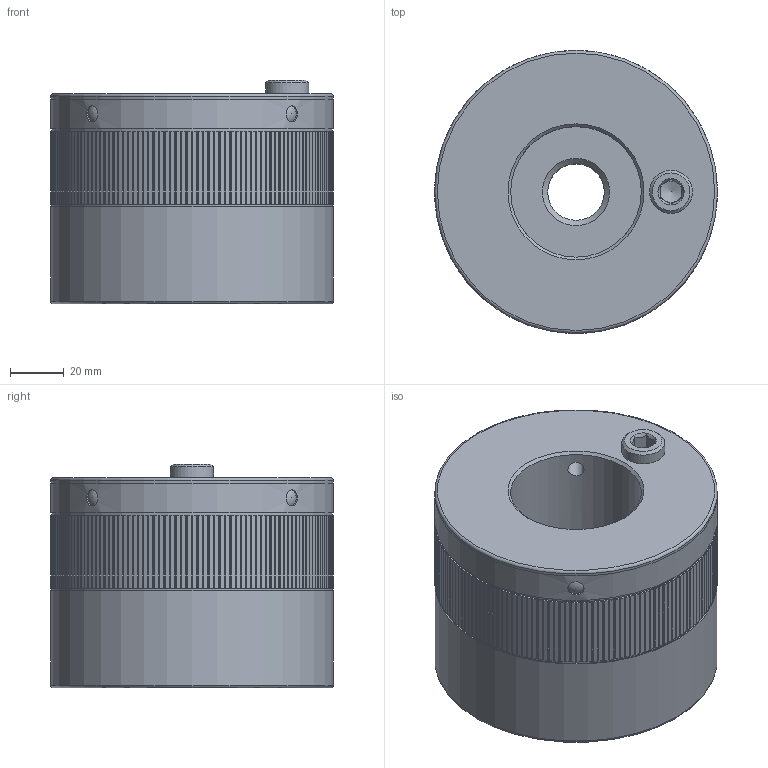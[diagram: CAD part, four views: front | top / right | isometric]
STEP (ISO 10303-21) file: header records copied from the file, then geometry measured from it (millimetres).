
FILE_DESCRIPTION(/* description */ ('Unknown','CAx-IF Rec.Pracs.---Representation and Presentation of Product Manufacturing Information (PMI)---4.0---2014-10-13','CAx-IF Rec.Pracs.---3D Tessellated Geometry---0.4---2014-09-14','2;1'),/* implementation_level */ '2;1');
FILE_NAME(/* name */ 'MDA 180_SW8_M24',/* time_stamp */ '2023-09-15T11:26:09+02:00',/* author */ ('Unknown'),/* organization */ ('Unknown'),/* preprocessor_version */ 'ST-DEVELOPER v18.102',/* originating_system */ 'Solid Edge',/* authorisation */ 'Unknown');
FILE_SCHEMA (('AP242_MANAGED_MODEL_BASED_3D_ENGINEERING_MIM_LF { 1 0 10303 442 1 1 4 }'));
Length unit declared in the file: millimetre
Products named in the file (7): 05933093; 43733051; 42231918; KT100003; 46431916; KT100869; 46331552
Assembly tree (9 placements, depth 2):
  05933093
    43733051
    42231918
    KT100003  x4
    46431916
    KT100869
    46331552
Bounding box: 105 x 105 x 83 mm (x, y, z)
Volume: 522095.2 mm3; surface area: 142781.7 mm2
Topology: 9 solids, 9 shells, 612 faces, 1743 edges, 1150 vertices
Faces by surface type: plane 354, cylinder 205, cone 31, torus 10, sphere 8, bspline 4
Full cylindrical faces by diameter (mm): 1.6 x1, 6 x12, 8 x1, 16 x2, 16.5 x1, 21 x1, 48.5 x1, 62 x3, 83.2 x1, 88 x1, 90 x1, 95.5 x1, 95.9 x1, 96 x3, 104 x2, 105 x3
Entity records: 19819 total; most frequent: CARTESIAN_POINT 3880, ORIENTED_EDGE 3220, DIRECTION 3218, EDGE_CURVE 1610, LINE 1154, VECTOR 1154, VERTEX_POINT 1106, AXIS2_PLACEMENT_3D 1032
